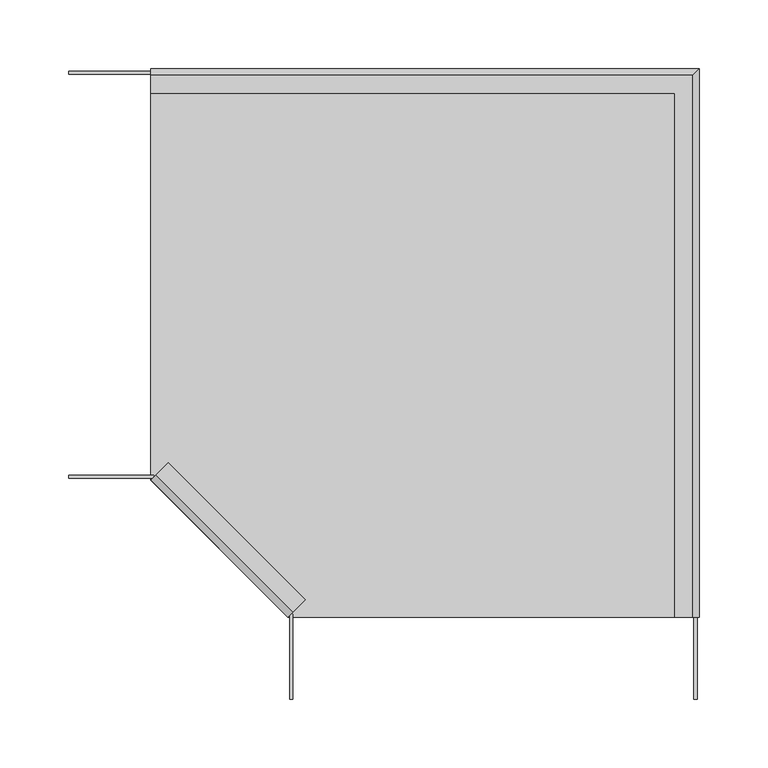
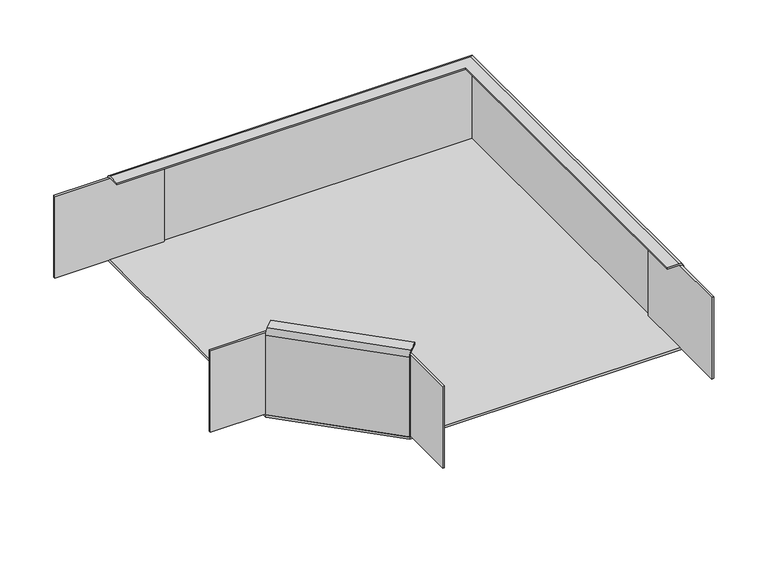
"""IFC4 building model written with IfcOpenShell, lengths in millimetres: cable carrier fitting geometry, CPWT_Horizontal Bend_Basorcanal : Basorcanal CPWT."""

from ifc_helpers import new_model, si_unit, point, frame, frame_2d, origin, place, context, project, spatial, polyline, circle_curve, ellipse_curve, trimmed, segment, composite_curve, outline, extrude, source, transform, mapped, element, save
from ifc_brep_helpers import plane_surface, cylinder_surface, revolved_surface, advanced_brep


def cable_carrier_fitting_665ff240(model_context):
    return source(origin(), model_context, "Body", "SolidModel", [
        extrude(outline(polyline([(-189.5979797, -204.745166), (-146.5857864, -247.7573593), (-146.5857864, -310.0), (-148.5857864, -310.0), (-148.5857864, -248.5857864), (-191.0121933, -206.1593796), (-189.5979797, -204.745166)])), frame((0.0, 0.0, -47.46), z_axis=(0.0, 0.0, 1.0), x_axis=(1.0, 0.0, 0.0)), (0.0, 0.0, 1.0), 94.46),
        extrude(outline(polyline([(-204.745166, -189.5979797), (-206.1593796, -191.0121933), (-248.5857864, -148.5857864), (-310.0, -148.5857864), (-310.0, -146.5857864), (-247.7573593, -146.5857864), (-204.745166, -189.5979797)])), frame((0.0, 0.0, -47.46), z_axis=(0.0, 0.0, 1.0), x_axis=(1.0, 0.0, 0.0)), (0.0, 0.0, 1.0), 94.46),
        extrude(outline(polyline([(-150.0, -250.0), (-250.0, -150.0), (-250.0, 150.0), (150.0, 150.0), (150.0, -250.0), (-150.0, -250.0)])), frame((0.0, 0.0, -50.0), z_axis=(0.0, 0.0, 1.0), x_axis=(1.0, 0.0, 0.0)), (0.0, 0.0, 1.0), 2.54),
        extrude(outline(polyline([(148.54, -310.0), (146.0, -310.0), (146.0, -190.0), (148.54, -190.0), (148.54, -310.0)])), frame((0.0, 0.0, -47.46), z_axis=(0.0, 0.0, 1.0), x_axis=(1.0, 0.0, 0.0)), (0.0, 0.0, 1.0), 94.46),
        extrude(outline(polyline([(-310.0, 148.0), (-190.0, 148.0), (-190.0, 146.0), (-310.0, 146.0), (-310.0, 148.0)])), frame((0.0, 0.0, -47.46), z_axis=(0.0, 0.0, 1.0), x_axis=(1.0, 0.0, 0.0)), (0.0, 0.0, 1.0), 94.46),
        advanced_brep(
        [(150.0, -250.0, 45.0), (145.0, -250.0, 50.0), (132.0, -250.0, 50.0), (132.0, -250.0, 48.0), (145.0, -250.0, 48.0), (148.0, -250.0, 45.0), (148.0, -250.0, -50.0), (150.0, -250.0, -50.0), (-250.0, 150.0, 45.0), (-250.0, 150.0, -50.0), (-250.0, 148.0, -50.0), (-250.0, 148.0, 45.0), (-250.0, 145.0, 48.0), (-250.0, 132.0, 48.0), (-250.0, 132.0, 50.0), (-250.0, 145.0, 50.0), (150.0, 150.0, 45.0), (145.0, 145.0, 50.0), (132.0, 132.0, 50.0), (132.0, 132.0, 48.0), (145.0, 145.0, 48.0), (148.0, 148.0, 45.0), (148.0, 148.0, -50.0), (150.0, 150.0, -50.0)],
        [
            (0, 1, circle_curve(frame((145.0, -250.0, 45.0), z_axis=(0.0, -1.0, 0.0), x_axis=(-1.0, 0.0, 0.0)), 5.0)),
            (1, 2),
            (2, 3),
            (3, 4),
            (4, 5, circle_curve(frame((145.0, -250.0, 45.0), z_axis=(0.0, 1.0, 0.0), x_axis=(-1.0, 0.0, 0.0)), 3.0)),
            (5, 6),
            (6, 7),
            (7, 0),
            (8, 9),
            (9, 10),
            (10, 11),
            (11, 12, circle_curve(frame((-250.0, 145.0, 45.0), z_axis=(1.0, 0.0, 0.0), x_axis=(0.0, -1.0, 0.0)), 3.0)),
            (12, 13),
            (13, 14),
            (14, 15),
            (15, 8, circle_curve(frame((-250.0, 145.0, 45.0), z_axis=(-1.0, 0.0, 0.0), x_axis=(0.0, -1.0, 0.0)), 5.0)),
            (0, 16),
            (16, 17, ellipse_curve(frame((145.0, 145.0, 45.0), z_axis=(0.7071067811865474, -0.7071067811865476, 0.0), x_axis=(-0.7071067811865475, -0.7071067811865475, 0.0)), 7.0710678, 5.0)),
            (17, 1),
            (17, 15),
            (14, 18),
            (18, 2),
            (18, 19),
            (19, 3),
            (19, 13),
            (12, 20),
            (20, 4),
            (20, 21, ellipse_curve(frame((145.0, 145.0, 45.0), z_axis=(-0.7071067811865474, 0.7071067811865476, 0.0), x_axis=(0.7071067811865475, 0.7071067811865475, 0.0)), 4.2426407, 3.0)),
            (21, 5),
            (21, 22),
            (22, 6),
            (22, 10),
            (9, 23),
            (23, 7),
            (23, 16),
            (16, 8),
            (11, 21),
        ],
        [
            plane_surface(frame((150.0, -250.0, -50.0), z_axis=(0.0, -1.0, 0.0), x_axis=(0.0, 0.0, -1.0))),
            plane_surface(frame((-250.0, 150.0, -50.0), z_axis=(-1.0, 0.0, 0.0), x_axis=(0.0, 0.0, -1.0))),
            cylinder_surface(frame((145.0, -250.0, 45.0), z_axis=(0.0, -1.0, 0.0), x_axis=(-1.0, 0.0, 0.0)), 5.0),
            plane_surface(frame((132.0, -250.0, 50.0), z_axis=(0.0, 0.0, 1.0), x_axis=(0.0, 1.0, 0.0))),
            plane_surface(frame((132.0, -250.0, 48.0), z_axis=(-1.0, 0.0, 0.0), x_axis=(0.0, 1.0, 0.0))),
            plane_surface(frame((145.0, -250.0, 48.0), z_axis=(0.0, 0.0, -1.0), x_axis=(0.0, 1.0, 0.0))),
            revolved_surface(polyline([(142.0, 148.00000000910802, 45.0), (142.0, -250.0, 45.0)]), (145.0, -250.0, 45.0), (0.0, 1.0, 0.0)),
            plane_surface(frame((148.0, -250.0, -50.0), z_axis=(-1.0, 0.0, 0.0), x_axis=(0.0, 1.0, 0.0))),
            plane_surface(frame((150.0, -250.0, -50.0), z_axis=(0.0, 0.0, -1.0), x_axis=(0.0, 1.0, 0.0))),
            plane_surface(frame((150.0, -250.0, 45.0), z_axis=(1.0, 0.0, 0.0), x_axis=(0.0, 1.0, 0.0))),
            cylinder_surface(frame((150.0, 145.0, 45.0), z_axis=(1.0, 0.0, 0.0), x_axis=(0.0, -1.0, 0.0)), 5.0),
            plane_surface(frame((132.0, 132.0, 48.0), z_axis=(0.0, -1.0, 0.0), x_axis=(-1.0, 0.0, 0.0))),
            revolved_surface(polyline([(-250.0, 142.0, 45.0), (148.00000000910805, 142.0, 45.0)]), (150.0, 145.0, 45.0), (-1.0, 0.0, 0.0)),
            plane_surface(frame((148.0, 148.0, -50.0), z_axis=(0.0, -1.0, 0.0), x_axis=(-1.0, 0.0, 0.0))),
            plane_surface(frame((150.0, 150.0, 45.0), z_axis=(0.0, 1.0, 0.0), x_axis=(-1.0, 0.0, 0.0))),
        ],
        [
            (0, [[1, 2, 3, 4, 5, 6, 7, 8]]),
            (1, [[9, 10, 11, 12, 13, 14, 15, 16]]),
            (2, [[17, 18, 19, -1]]),
            (3, [[-19, 20, -15, 21, 22, -2]]),
            (4, [[-22, 23, 24, -3]]),
            (5, [[-24, 25, -13, 26, 27, -4]]),
            (6, [[-27, 28, 29, -5]]),
            (7, [[-29, 30, 31, -6]]),
            (8, [[-31, 32, -10, 33, 34, -7]]),
            (9, [[-34, 35, -17, -8]]),
            (10, [[36, -16, -20, -18]]),
            (11, [[-21, -14, -25, -23]]),
            (12, [[-26, -12, 37, -28]]),
            (13, [[-37, -11, -32, -30]]),
            (14, [[-33, -9, -36, -35]]),
        ],
    ),
        extrude(outline(composite_curve([segment(polyline([(-95.0, 0.0), (0.0, 0.0), (0.0, -2.0000001), (-95.0, -2.0000001)]), True, "CONTINUOUS"), segment(trimmed(circle_curve(frame_2d((-95.0, -5.0)), 3.0), [point((-95.0, -2.0000001))], [point((-98.0, -5.0))], True, "CARTESIAN"), True, "CONTINUOUS"), segment(polyline([(-98.0, -5.0), (-98.0, -18.0000001), (-100.0, -18.0000001), (-100.0, -5.0)]), True, "CONTINUOUS"), segment(trimmed(circle_curve(frame_2d((-95.0, -5.0)), 5.0), [point((-100.0, -5.0))], [point((-95.0, 0.0))], False, "CARTESIAN"), True, "CONTINUOUS")], self_intersect=False)), frame((-150.0, -250.0, -50.0), z_axis=(-0.7071067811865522, 0.7071067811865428, 0.0), x_axis=(0.0, 0.0, -1.0)), (0.0, 0.0, 1.0), 141.4213562),
    ])


if __name__ == "__main__":
    model = new_model("IFC4")
    model_context = context("Model", 3, world=origin())
    ifc_project = project(units=[si_unit("LENGTHUNIT", "METRE", prefix="MILLI")], contexts=[model_context])
    site = spatial("IfcSite", under=ifc_project)
    building = spatial("IfcBuilding", under=site)
    placement = place(None, origin())
    cable_carrier_fitting_shape = cable_carrier_fitting_665ff240(model_context)
    element("IfcCableCarrierFitting", 1, ObjectType="CPWT_Horizontal Bend_Basorcanal : Basorcanal CPWT", at=placement, inside=building, context=model_context, shape_type="MappedRepresentation", body=[
        mapped(cable_carrier_fitting_shape, transform((0.0, 0.0, 0.0), x_axis=(1.0, 0.0, 0.0), y_axis=(0.0, 1.0, 0.0), z_axis=(0.0, 0.0, 1.0))),
    ])
    save(model, "model.ifc")
